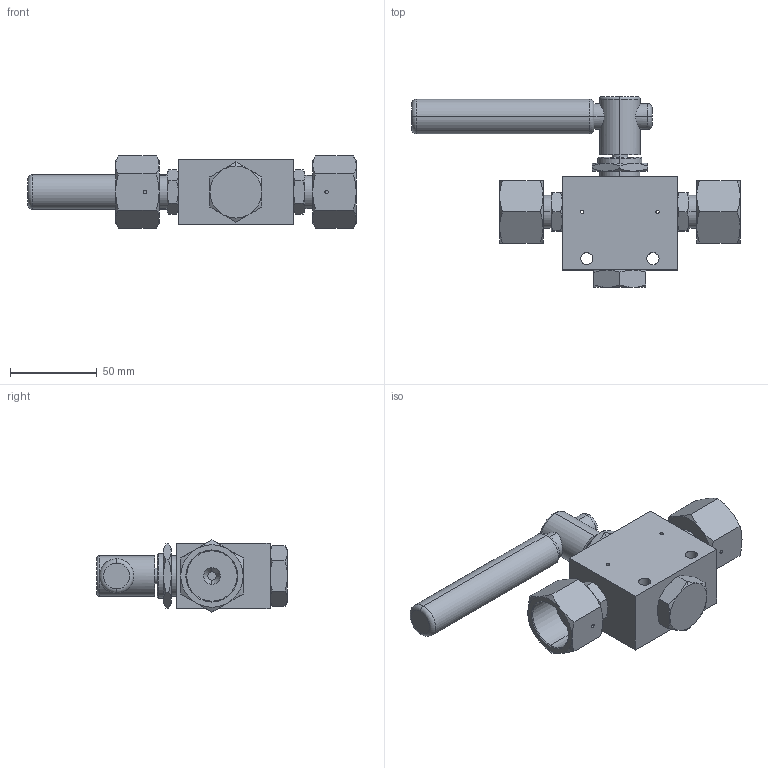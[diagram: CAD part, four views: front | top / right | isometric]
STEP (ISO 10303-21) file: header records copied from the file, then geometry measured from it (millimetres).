
FILE_DESCRIPTION (( 'STEP AP203' ), '1' );
FILE_NAME ('BV6003S09-2-90.STEP', '2022-04-12T10:14:12', ( '' ), ( '' ), 'SwSTEP 2.0', 'SolidWorks 2020', '' );
FILE_SCHEMA (( 'CONFIG_CONTROL_DESIGN' ));
Length unit declared in the file: millimetre
Products named in the file (1): BV6003S09-2-90
Bounding box: 189.33 x 110 x 41.57 mm (x, y, z)
Volume: 234595.4 mm3; surface area: 46706.1 mm2
Topology: 1 solids, 1 shells, 200 faces, 440 edges, 258 vertices
Faces by surface type: cone 90, plane 60, cylinder 42, torus 8
Entity records: 6273 total; most frequent: CARTESIAN_POINT 1979, ORIENTED_EDGE 872, DIRECTION 862, EDGE_CURVE 436, AXIS2_PLACEMENT_3D 377, VERTEX_POINT 258, EDGE_LOOP 232, ADVANCED_FACE 200
